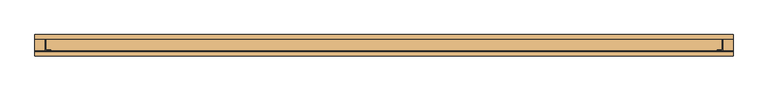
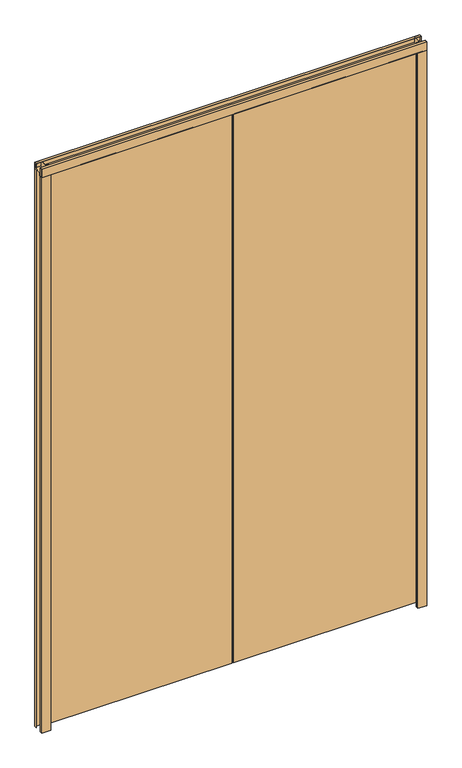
"""IFC4 building model written with IfcOpenShell, lengths in millimetres: door geometry, Puerta Metalica-lisa_doble : Puerta Metálica lisa_doble 2."""

from ifc_helpers import new_model, si_unit, frame, origin, origin_with_axes, place, context, project, spatial, polyline, outline, extrude, source, transform, mapped, element, save


def door_ddb746d0(model_context):
    return source(origin(), model_context, "Body", "SweptSolid", [
        extrude(outline(polyline([(15.4, 2570.0), (25.4, 2570.0), (25.4, 2544.6), (-11.6, 2544.6), (-11.6, 2531.9), (-25.4, 2531.9), (-25.4, 2570.0), (-15.4, 2570.0), (-15.4, 2569.0), (-24.4, 2569.0), (-24.4, 2532.9), (-12.6, 2532.9), (-12.6, 2545.6), (24.4, 2545.6), (24.4, 2569.0), (15.4, 2569.0), (15.4, 2570.0)])), frame((-830.0, 0.0, 0.0), z_axis=(1.0, 0.0, 0.0), x_axis=(0.0, 1.0, 0.0)), (0.0, 0.0, 1.0), 1660.0),
        extrude(outline(polyline([(-34.5, 22.9), (-3.0, 22.9), (-3.0, -8.6), (-34.5, -8.6), (-34.5, 22.9)])), frame((0.0, 0.0, 20.0), z_axis=(0.0, 0.0, 1.0), x_axis=(1.0, 0.0, 0.0)), (0.0, 0.0, 1.0), 2511.9),
        extrude(outline(polyline([(-768.5, 22.9), (-768.5, -8.6), (-800.0, -8.6), (-800.0, 22.9), (-768.5, 22.9)])), frame((0.0, 0.0, 20.0), z_axis=(0.0, 0.0, 1.0), x_axis=(1.0, 0.0, 0.0)), (0.0, 0.0, 1.0), 2511.9),
        extrude(outline(polyline([(-800.0, 25.4), (-3.0, 25.4), (-3.0, 22.9), (-800.0, 22.9), (-800.0, 25.4)])), frame((0.0, 0.0, 20.0), z_axis=(0.0, 0.0, 1.0), x_axis=(1.0, 0.0, 0.0)), (0.0, 0.0, 1.0), 2524.6),
        extrude(outline(polyline([(-3.0, -11.1), (-800.0, -11.1), (-800.0, -8.6), (-3.0, -8.6), (-3.0, -11.1)])), frame((0.0, 0.0, 20.0), z_axis=(0.0, 0.0, 1.0), x_axis=(1.0, 0.0, 0.0)), (0.0, 0.0, 1.0), 2524.6),
        extrude(outline(polyline([(34.5, 22.9), (34.5, -8.6), (3.0, -8.6), (3.0, 22.9), (34.5, 22.9)])), frame((0.0, 0.0, 20.0), z_axis=(0.0, 0.0, 1.0), x_axis=(1.0, 0.0, 0.0)), (0.0, 0.0, 1.0), 2511.9),
        extrude(outline(polyline([(768.5, 22.9), (800.0, 22.9), (800.0, -8.6), (768.5, -8.6), (768.5, 22.9)])), frame((0.0, 0.0, 20.0), z_axis=(0.0, 0.0, 1.0), x_axis=(1.0, 0.0, 0.0)), (0.0, 0.0, 1.0), 2511.9),
        extrude(outline(polyline([(800.0, 25.4), (800.0, 22.9), (3.0, 22.9), (3.0, 25.4), (800.0, 25.4)])), frame((0.0, 0.0, 20.0), z_axis=(0.0, 0.0, 1.0), x_axis=(1.0, 0.0, 0.0)), (0.0, 0.0, 1.0), 2524.6),
        extrude(outline(polyline([(3.0, -11.1), (3.0, -8.6), (800.0, -8.6), (800.0, -11.1), (3.0, -11.1)])), frame((0.0, 0.0, 20.0), z_axis=(0.0, 0.0, 1.0), x_axis=(1.0, 0.0, 0.0)), (0.0, 0.0, 1.0), 2524.6),
        extrude(outline(polyline([(-830.0, 15.4), (-830.0, 25.4), (-804.6, 25.4), (-804.6, -11.6), (-791.9, -11.6), (-791.9, -25.4), (-830.0, -25.4), (-830.0, -15.4), (-829.0, -15.4), (-829.0, -24.4), (-792.9, -24.4), (-792.9, -12.6), (-805.6, -12.6), (-805.6, 24.4), (-829.0, 24.4), (-829.0, 15.4), (-830.0, 15.4)])), origin_with_axes(), (0.0, 0.0, 1.0), 2570.0),
        extrude(outline(polyline([(830.0, 15.4), (829.0, 15.4), (829.0, 24.4), (805.6, 24.4), (805.6, -12.6), (792.9, -12.6), (792.9, -24.4), (829.0, -24.4), (829.0, -15.4), (830.0, -15.4), (830.0, -25.4), (791.9, -25.4), (791.9, -11.6), (804.6, -11.6), (804.6, 25.4), (830.0, 25.4), (830.0, 15.4)])), origin_with_axes(), (0.0, 0.0, 1.0), 2570.0),
    ])


if __name__ == "__main__":
    model = new_model("IFC4")
    model_context = context("Model", 3, world=origin())
    ifc_project = project(units=[si_unit("LENGTHUNIT", "METRE", prefix="MILLI")], contexts=[model_context])
    site = spatial("IfcSite", under=ifc_project)
    building = spatial("IfcBuilding", under=site)
    placement = place(None, origin())
    door_shape = door_ddb746d0(model_context)
    element("IfcDoor", 1, ObjectType="Puerta Metalica-lisa_doble : Puerta Metálica lisa_doble 2", at=placement, inside=building, context=model_context, shape_type="MappedRepresentation", body=[
        mapped(door_shape, transform((0.0, 0.0, 0.0), x_axis=(1.0, 0.0, 0.0), y_axis=(0.0, 1.0, 0.0), z_axis=(0.0, 0.0, 1.0))),
    ])
    save(model, "model.ifc")
